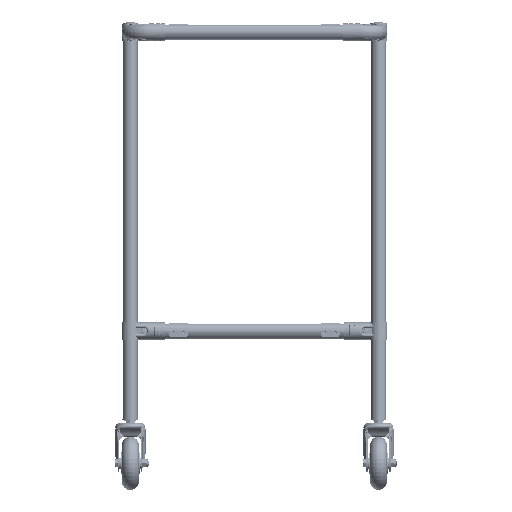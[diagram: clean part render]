
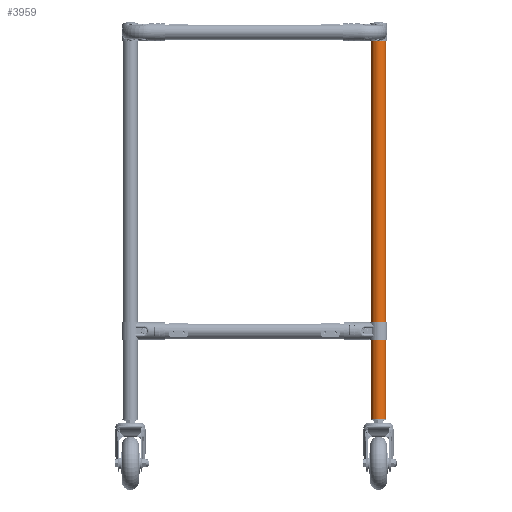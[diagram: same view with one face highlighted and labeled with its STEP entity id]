
A CAD part, top view. The second image highlights one B-rep face of the part: STEP entity #3959.
In plain terms, the highlighted cylindrical face has radius 14 mm (diameter 28 mm), a partial arc.
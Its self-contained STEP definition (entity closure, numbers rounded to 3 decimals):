
#1323 = AXIS2_PLACEMENT_3D ( 'NONE', #17789, #26248, #57911 ) ;
#3959 = ADVANCED_FACE ( 'NONE', ( #87572 ), #95449, .T. ) ;
#4079 = EDGE_CURVE ( 'NONE', #58920, #11716, #48195, .T. ) ;
#5683 = CARTESIAN_POINT ( 'NONE',  ( -14., 0., -375. ) ) ;
#7666 = ORIENTED_EDGE ( 'NONE', *, *, #71567, .F. ) ;
#7791 = DIRECTION ( 'NONE',  ( 0., 0., 1. ) ) ;
#11716 = VERTEX_POINT ( 'NONE', #91900 ) ;
#17789 = CARTESIAN_POINT ( 'NONE',  ( 0., 0., 375. ) ) ;
#17927 = ORIENTED_EDGE ( 'NONE', *, *, #79210, .F. ) ;
#21510 = CARTESIAN_POINT ( 'NONE',  ( 14., 0., 375. ) ) ;
#24379 = VERTEX_POINT ( 'NONE', #35705 ) ;
#26248 = DIRECTION ( 'NONE',  ( 0., 0., 1. ) ) ;
#27937 = DIRECTION ( 'NONE',  ( 0., 0., -1. ) ) ;
#30527 = DIRECTION ( 'NONE',  ( -1., 0., 0. ) ) ;
#34731 = AXIS2_PLACEMENT_3D ( 'NONE', #37895, #7791, #87043 ) ;
#35705 = CARTESIAN_POINT ( 'NONE',  ( -14., 0., 375. ) ) ;
#37895 = CARTESIAN_POINT ( 'NONE',  ( 0., 0., -375. ) ) ;
#38659 = LINE ( 'NONE', #65929, #93396 ) ;
#43320 = ORIENTED_EDGE ( 'NONE', *, *, #70325, .T. ) ;
#45693 = ORIENTED_EDGE ( 'NONE', *, *, #4079, .T. ) ;
#47886 = CARTESIAN_POINT ( 'NONE',  ( 0., 0., 375. ) ) ;
#48195 = CIRCLE ( 'NONE', #34731, 14. ) ;
#48503 = CIRCLE ( 'NONE', #1323, 14. ) ;
#57911 = DIRECTION ( 'NONE',  ( 1., 0., 0. ) ) ;
#58920 = VERTEX_POINT ( 'NONE', #5683 ) ;
#65929 = CARTESIAN_POINT ( 'NONE',  ( 14., 0., 375. ) ) ;
#70325 = EDGE_CURVE ( 'NONE', #24379, #58920, #100295, .T. ) ;
#70866 = DIRECTION ( 'NONE',  ( 0., 0., -1. ) ) ;
#71567 = EDGE_CURVE ( 'NONE', #100814, #11716, #38659, .T. ) ;
#79210 = EDGE_CURVE ( 'NONE', #24379, #100814, #48503, .T. ) ;
#81647 = VECTOR ( 'NONE', #27937, 1000. ) ;
#85489 = CARTESIAN_POINT ( 'NONE',  ( -14., 0., 375. ) ) ;
#87043 = DIRECTION ( 'NONE',  ( 1., 0., 0. ) ) ;
#87075 = AXIS2_PLACEMENT_3D ( 'NONE', #47886, #102906, #30527 ) ;
#87572 = FACE_OUTER_BOUND ( 'NONE', #89098, .T. ) ;
#89098 = EDGE_LOOP ( 'NONE', ( #7666, #17927, #43320, #45693 ) ) ;
#91900 = CARTESIAN_POINT ( 'NONE',  ( 14., 0., -375. ) ) ;
#93396 = VECTOR ( 'NONE', #70866, 1000. ) ;
#95449 = CYLINDRICAL_SURFACE ( 'NONE', #87075, 14. ) ;
#100295 = LINE ( 'NONE', #85489, #81647 ) ;
#100814 = VERTEX_POINT ( 'NONE', #21510 ) ;
#102906 = DIRECTION ( 'NONE',  ( 0., 0., -1. ) ) ;
